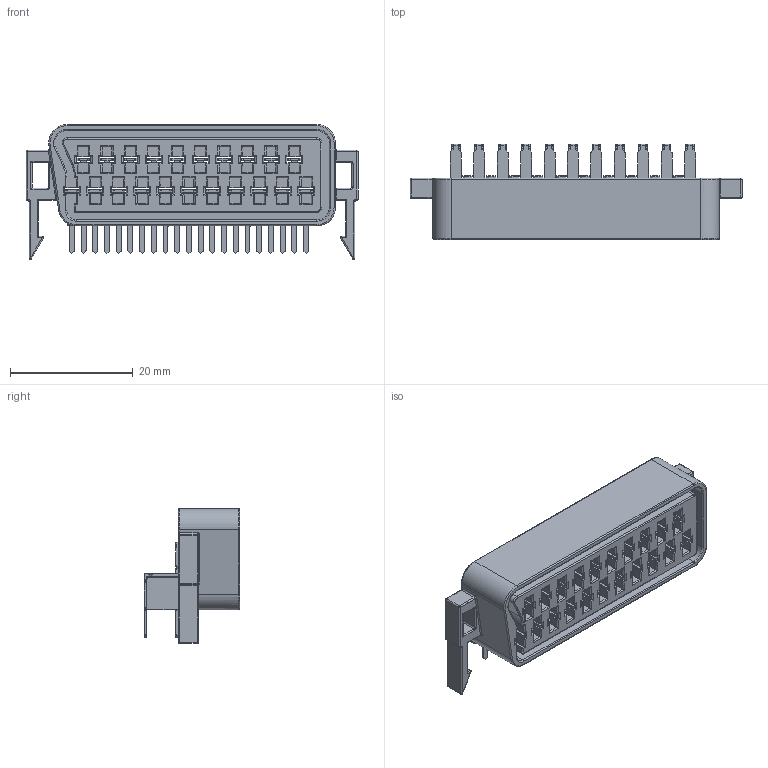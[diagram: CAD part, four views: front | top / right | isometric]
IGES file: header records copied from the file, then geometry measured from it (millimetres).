
Global section: file name: SCART connector; native system: unknown; preprocessor: unknown; author: unknown; organization: unknown; date: 20201004.174403; units: millimetre
Bounding box: 54 x 15.5 x 21.96 mm (x, y, z)
Volume: 6002.4 mm3; surface area: 9697.3 mm2
Topology: 22 solids, 22 shells, 1962 faces, 5374 edges, 3444 vertices
Faces by surface type: bspline 1962
